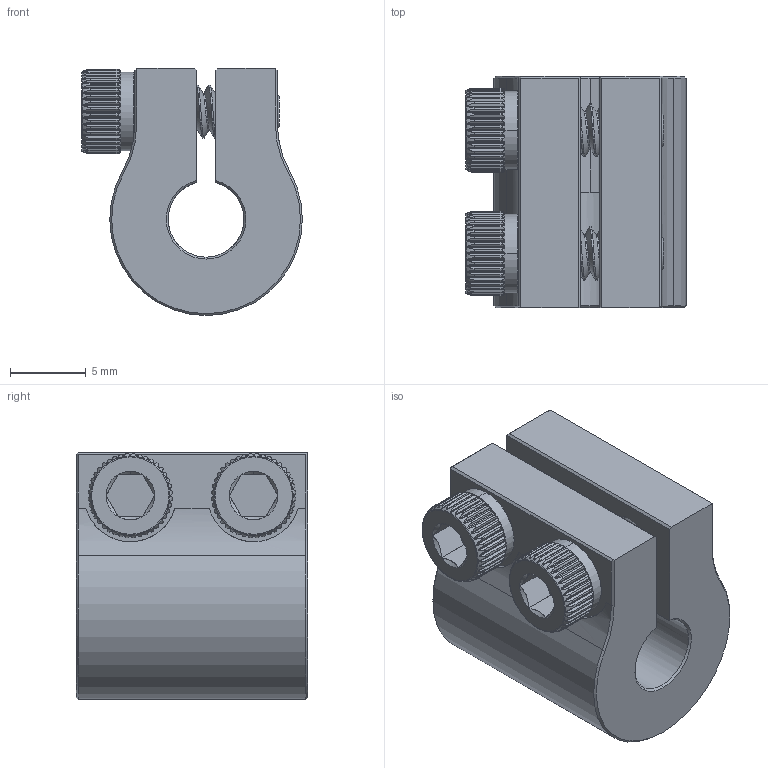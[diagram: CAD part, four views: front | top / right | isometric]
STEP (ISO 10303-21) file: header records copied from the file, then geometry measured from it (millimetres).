
FILE_DESCRIPTION (( 'STEP AP203' ), '1' );
FILE_NAME ('625050 assembly.STEP', '2017-01-18T20:03:04', ( '' ), ( '' ), 'SwSTEP 2.0', 'SolidWorks 2016', '' );
FILE_SCHEMA (( 'CONFIG_CONTROL_DESIGN' ));
Length unit declared in the file: inch
Products named in the file (3): 625050; 625050 assembly; 632110_90128A121
Assembly tree (3 placements, depth 2):
  625050 assembly
    625050
    632110_90128A121  x2
Bounding box: 14.55 x 15.24 x 16.29 mm (x, y, z)
Volume: 2141.4 mm3; surface area: 2185.8 mm2
Topology: 3 solids, 3 shells, 1858 faces, 4461 edges, 2611 vertices
Faces by surface type: bspline 892, cylinder 615, plane 281, torus 38, cone 32
Entity records: 44588 total; most frequent: CARTESIAN_POINT 25221, ORIENTED_EDGE 4730, DIRECTION 2948, EDGE_CURVE 2365, VERTEX_POINT 1392, AXIS2_PLACEMENT_3D 1212, B_SPLINE_CURVE_WITH_KNOTS 992, EDGE_LOOP 985
